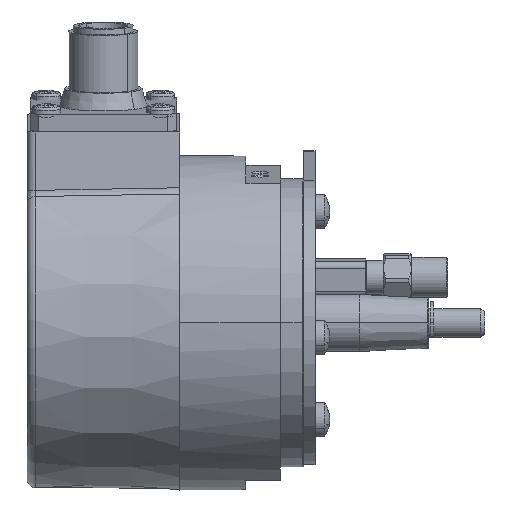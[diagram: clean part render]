
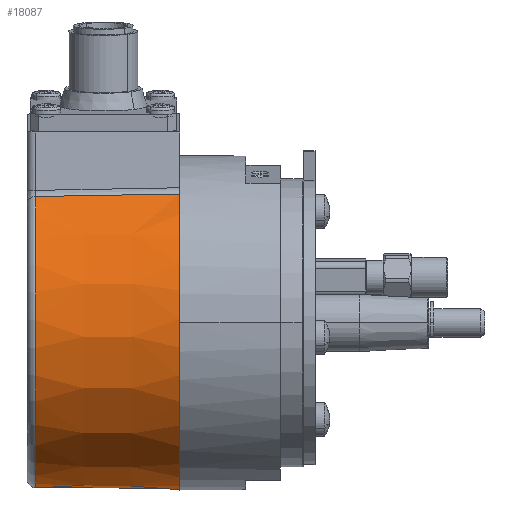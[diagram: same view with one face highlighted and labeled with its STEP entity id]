
A CAD part, top view. The second image highlights one B-rep face of the part: STEP entity #18087.
In plain terms, the highlighted conical face has half-angle 0.75 degrees and reference radius 29 mm.
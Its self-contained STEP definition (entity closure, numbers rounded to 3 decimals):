
#15208 = CARTESIAN_POINT ( 'NONE',  ( -17.52, -28.459, -3.494 ) ) ;
#15244 = DIRECTION ( 'NONE',  ( 0., 0.993, 0.122 ) ) ;
#15245 = DIRECTION ( 'NONE',  ( 1., 0., 0. ) ) ;
#15246 = CARTESIAN_POINT ( 'NONE',  ( -17.52, 0., 0. ) ) ;
#15247 = AXIS2_PLACEMENT_3D ( 'NONE', #15246, #15245, #15244 ) ;
#15248 = CIRCLE ( 'NONE', #15247, 28.672 ) ;
#15255 = CARTESIAN_POINT ( 'NONE',  ( -17.52, 21.923, 18.479 ) ) ;
#15632 = CARTESIAN_POINT ( 'NONE',  ( 7.5, -28.784, -3.534 ) ) ;
#15633 = DIRECTION ( 'NONE',  ( 1., -0.013, -0.002 ) ) ;
#15634 = VECTOR ( 'NONE', #15633, 1000. ) ;
#15635 = CARTESIAN_POINT ( 'NONE',  ( 7.5, -28.784, -3.534 ) ) ;
#15636 = LINE ( 'NONE', #15635, #15634 ) ;
#16134 = CARTESIAN_POINT ( 'NONE',  ( 7.5, 0., 0. ) ) ;
#16186 = CIRCLE ( 'NONE', #16219, 29. ) ;
#16201 = CARTESIAN_POINT ( 'NONE',  ( -17.52, 21.923, 18.479 ) ) ;
#16202 = CARTESIAN_POINT ( 'NONE',  ( -14.179, 21.982, 18.477 ) ) ;
#16203 = CARTESIAN_POINT ( 'NONE',  ( -10.838, 22.04, 18.476 ) ) ;
#16204 = CARTESIAN_POINT ( 'NONE',  ( -7.498, 22.099, 18.474 ) ) ;
#16205 = CARTESIAN_POINT ( 'NONE',  ( -3.498, 22.169, 18.472 ) ) ;
#16206 = CARTESIAN_POINT ( 'NONE',  ( 0.501, 22.238, 18.47 ) ) ;
#16207 = CARTESIAN_POINT ( 'NONE',  ( 4.5, 22.308, 18.469 ) ) ;
#16208 = CARTESIAN_POINT ( 'NONE',  ( 5.5, 22.325, 18.468 ) ) ;
#16209 = CARTESIAN_POINT ( 'NONE',  ( 6.5, 22.343, 18.468 ) ) ;
#16210 = CARTESIAN_POINT ( 'NONE',  ( 7.5, 22.36, 18.467 ) ) ;
#16215 = B_SPLINE_CURVE_WITH_KNOTS ( 'NONE', 3,
 ( #16210, #16209, #16208, #16207, #16206, #16205, #16204, #16203, #16202, #16201 ),
 .UNSPECIFIED., .F., .F.,
 ( 4, 3, 3, 4 ),
 ( 0., 0.003, 0.015, 0.025 ),
 .UNSPECIFIED. ) ;
#16216 = CARTESIAN_POINT ( 'NONE',  ( 7.5, 22.36, 18.467 ) ) ;
#16217 = DIRECTION ( 'NONE',  ( 0., 0.993, 0.122 ) ) ;
#16218 = DIRECTION ( 'NONE',  ( -1., 0., 0. ) ) ;
#16219 = AXIS2_PLACEMENT_3D ( 'NONE', #16134, #16218, #16217 ) ;
#16553 = FACE_OUTER_BOUND ( 'NONE', #18088, .T. ) ;
#16594 = DIRECTION ( 'NONE',  ( 0., -0.993, -0.122 ) ) ;
#16595 = DIRECTION ( 'NONE',  ( 1., 0., 0. ) ) ;
#16596 = CARTESIAN_POINT ( 'NONE',  ( 7.5, 0., 0. ) ) ;
#16597 = AXIS2_PLACEMENT_3D ( 'NONE', #16596, #16595, #16594 ) ;
#16598 = CONICAL_SURFACE ( 'NONE', #16597, 29., 0.013 ) ;
#17790 = VERTEX_POINT ( 'NONE', #15208 ) ;
#17796 = EDGE_CURVE ( 'NONE', #17813, #17790, #15248, .T. ) ;
#17813 = VERTEX_POINT ( 'NONE', #15255 ) ;
#17901 = ORIENTED_EDGE ( 'NONE', *, *, #17796, .T. ) ;
#17902 = ORIENTED_EDGE ( 'NONE', *, *, #17903, .T. ) ;
#17903 = EDGE_CURVE ( 'NONE', #17790, #17904, #15636, .T. ) ;
#17904 = VERTEX_POINT ( 'NONE', #15632 ) ;
#17905 = ORIENTED_EDGE ( 'NONE', *, *, #18030, .T. ) ;
#18030 = EDGE_CURVE ( 'NONE', #17904, #18031, #16186, .T. ) ;
#18031 = VERTEX_POINT ( 'NONE', #16216 ) ;
#18032 = ORIENTED_EDGE ( 'NONE', *, *, #18033, .T. ) ;
#18033 = EDGE_CURVE ( 'NONE', #18031, #17813, #16215, .T. ) ;
#18087 = ADVANCED_FACE ( 'NONE', ( #16553 ), #16598, .T. ) ;
#18088 = EDGE_LOOP ( 'NONE', ( #17901, #17902, #17905, #18032 ) ) ;
